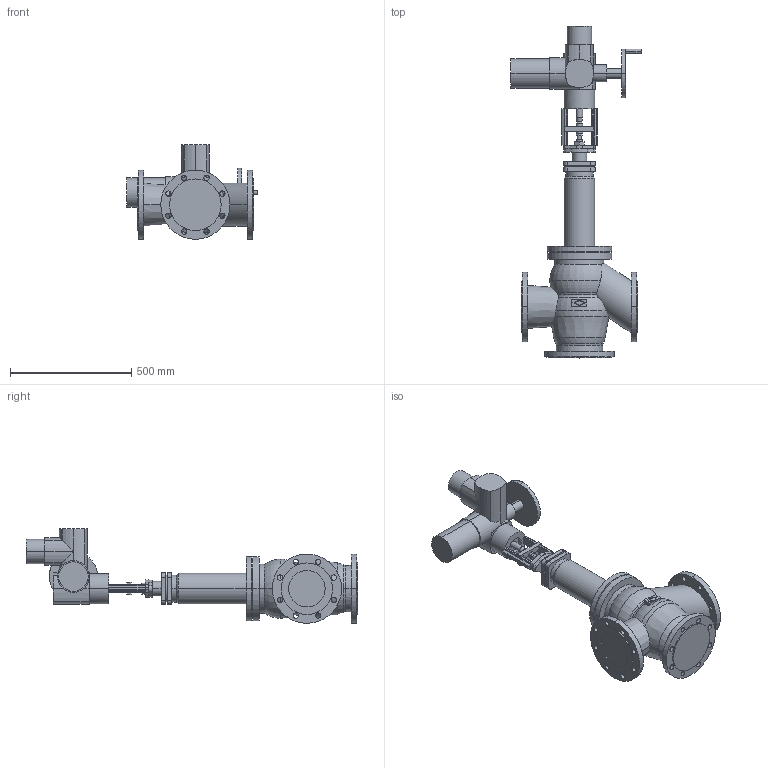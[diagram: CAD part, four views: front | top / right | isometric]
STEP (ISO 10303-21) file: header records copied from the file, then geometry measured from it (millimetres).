
FILE_DESCRIPTION(('OneSpaceDesigner STEP Export'),'2;1');
FILE_NAME('c000003201.stp','2007-01-26T13:19:28',(''),(''),'OneSpace Designer STEP processor for AP214 (Solid Model)','OneSpace Designer 14.00B 27-May-2006 (C) CoCreate Software GmbH','');
FILE_SCHEMA(('AUTOMOTIVE_DESIGN { 1 0 10303 214 1 1 1 1 }'));
Length unit declared in the file: millimetre
Products named in the file (2): 1; 2
Bounding box: 536 x 1366.2 x 389.5 mm (x, y, z)
Volume: 43403491.5 mm3; surface area: 1627395.3 mm2
Topology: 2 solids, 2 shells, 369 faces, 936 edges, 597 vertices
Faces by surface type: cylinder 182, plane 161, torus 16, cone 10
Entity records: 10679 total; most frequent: CARTESIAN_POINT 2346, ORIENTED_EDGE 1872, DIRECTION 1548, EDGE_CURVE 936, VERTEX_POINT 597, AXIS2_PLACEMENT_3D 543, VECTOR 462, LINE 462
